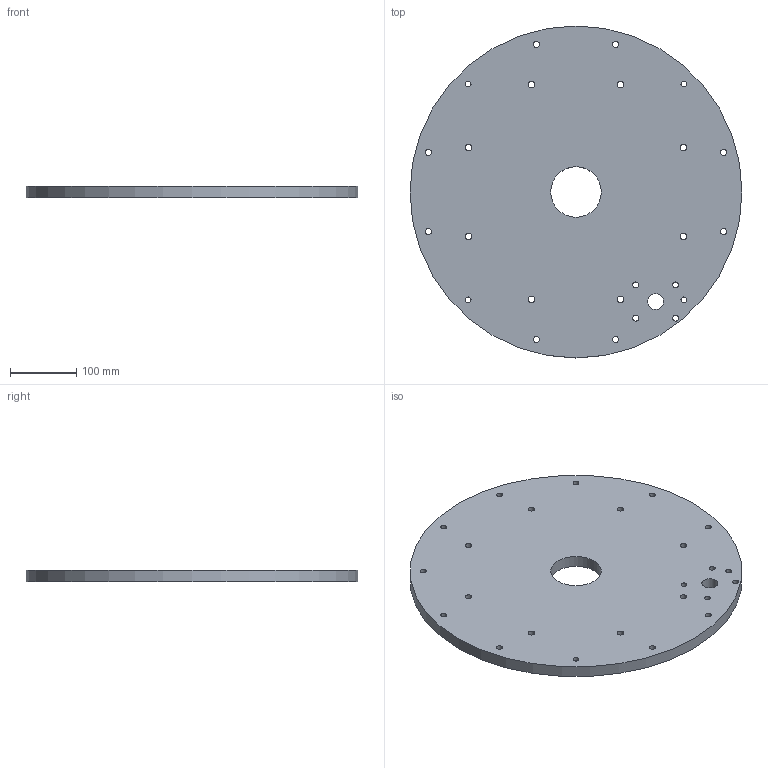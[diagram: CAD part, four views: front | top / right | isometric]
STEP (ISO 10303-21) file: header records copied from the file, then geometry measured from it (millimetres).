
FILE_DESCRIPTION(('Open CASCADE Model'),'2;1');
FILE_NAME('Open CASCADE Shape Model','2026-10-08T06:53:12',('Author'),( 'Open CASCADE'),'Open CASCADE STEP processor 7.8','Open CASCADE 7.8' ,'Unknown');
FILE_SCHEMA(('AUTOMOTIVE_DESIGN { 1 0 10303 214 1 1 1 1 }'));
Length unit declared in the file: millimetre
Products named in the file (1): Open CASCADE STEP translator 7.8 1
Bounding box: 500 x 500 x 18 mm (x, y, z)
Volume: 3414860.9 mm3; surface area: 426025.1 mm2
Topology: 1 solids, 1 shells, 29 faces, 81 edges, 54 vertices
Faces by surface type: cylinder 27, plane 2
Full cylindrical faces by diameter (mm): 9 x16, 10 x8, 24 x1, 76 x1, 500 x1
Entity records: 2292 total; most frequent: CARTESIAN_POINT 639, DIRECTION 305, ORIENTED_EDGE 162, PCURVE 162, DEFINITIONAL_REPRESENTATION 162, LINE 135, VECTOR 135, AXIS2_PLACEMENT_3D 84
